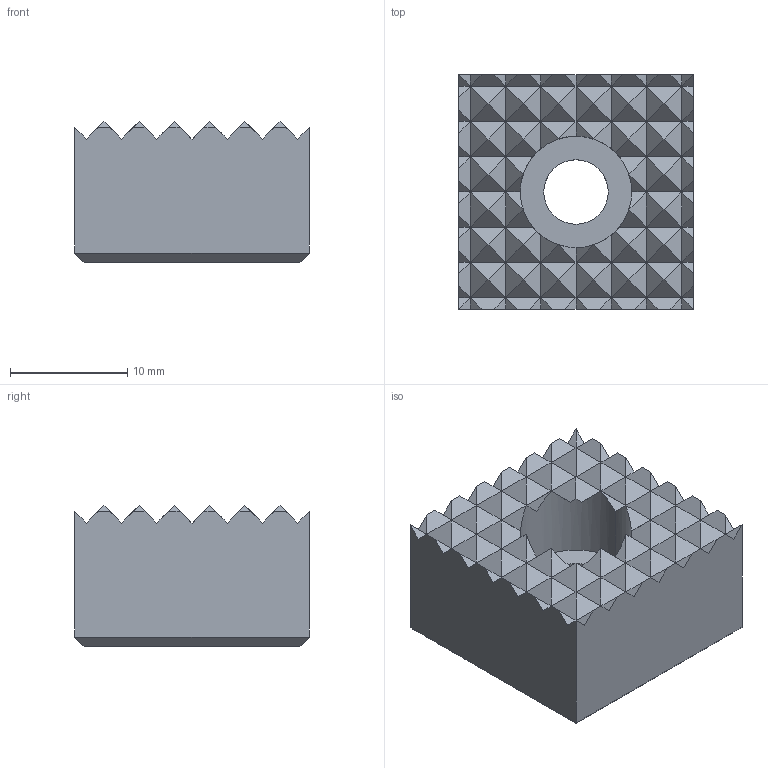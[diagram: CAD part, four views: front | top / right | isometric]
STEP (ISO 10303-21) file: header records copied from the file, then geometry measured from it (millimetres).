
FILE_DESCRIPTION (( 'STEP AP203' ), '1' );
FILE_NAME ('hs-9202-c.STEP', '2021-10-26T01:17:52', ( '' ), ( '' ), 'SwSTEP 2.0', 'SolidWorks 2020', '' );
FILE_SCHEMA (( 'CONFIG_CONTROL_DESIGN' ));
Length unit declared in the file: millimetre
Products named in the file (1): hs-9202-c
Bounding box: 20 x 20 x 12 mm (x, y, z)
Volume: 3845.9 mm3; surface area: 2006.4 mm2
Topology: 1 solids, 1 shells, 214 faces, 402 edges, 190 vertices
Faces by surface type: plane 210, cylinder 4
Entity records: 5001 total; most frequent: CARTESIAN_POINT 903, DIRECTION 806, ORIENTED_EDGE 804, EDGE_CURVE 402, VECTOR 364, LINE 364, AXIS2_PLACEMENT_3D 221, EDGE_LOOP 216
